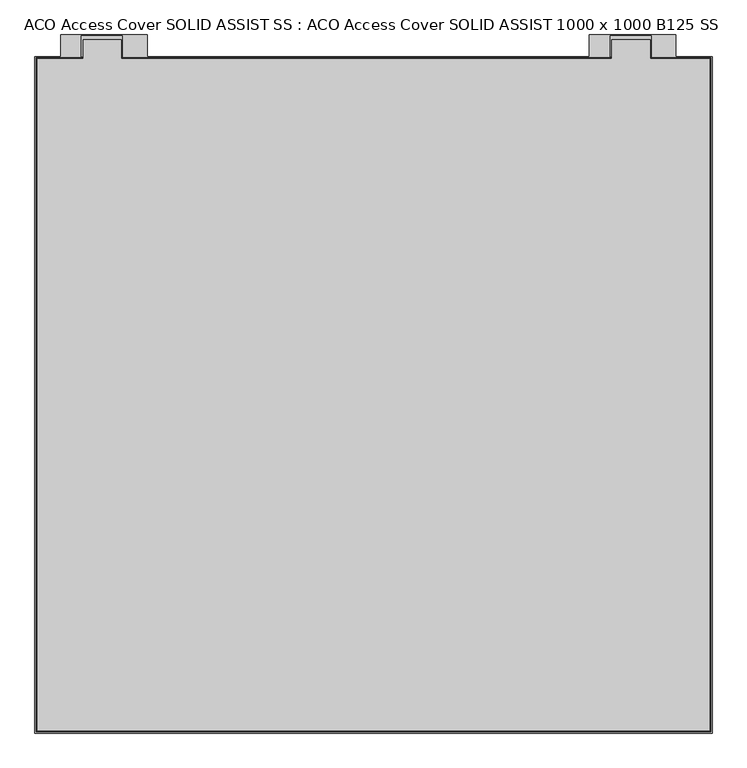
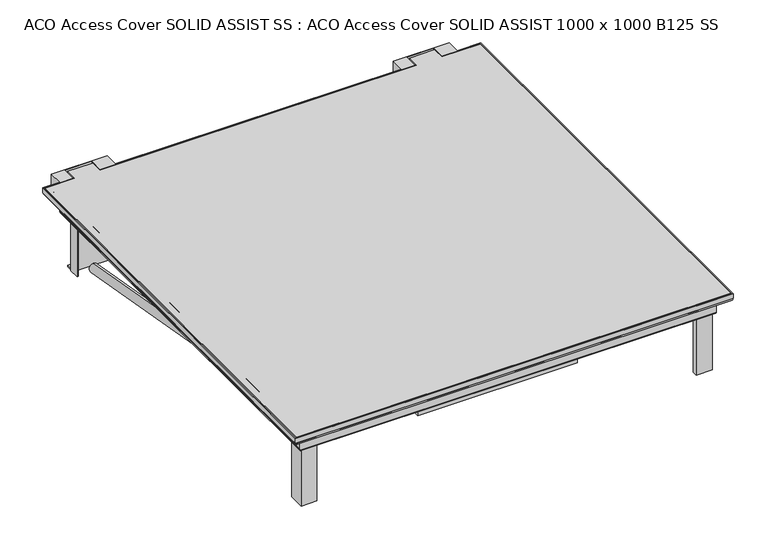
"""IFC4 building model written with IfcOpenShell, lengths in millimetres: proxy geometry, ACO Access Cover SOLID ASSIST SS : ACO Access Cover SOLID ASSIST 1000 x 1000 B125 SS."""

from ifc_helpers import new_model, si_unit, point, frame, origin, origin_2d, place, context, project, spatial, polyline, circle_curve, ellipse_curve, trimmed, segment, composite_curve, outline, extrude, source, transform, mapped, element, save
from ifc_brep_helpers import plane_surface, cylinder_surface, revolved_surface, advanced_brep


def aco_access_cover_solid_assist_ss_aco_access_cover_solid_1b92ef1a(model_context):
    return source(origin(), model_context, "Body", "SolidModel", [
        extrude(outline(polyline([(544.5, 544.0), (544.5, -544.0), (-544.5, -544.0), (-544.5, 544.0), (-470.0, 544.0), (-470.0, 575.0), (-408.0, 575.0), (-408.0, 544.0), (386.0, 544.0), (386.0, 575.0), (448.0, 575.0), (448.0, 544.0), (544.5, 544.0)])), frame((0.0, 0.0, -5.0), z_axis=(0.0, 0.0, 1.0), x_axis=(1.0, 0.0, 0.0)), (0.0, 0.0, 1.0), 5.0),
        extrude(outline(composite_curve([segment(trimmed(circle_curve(origin_2d(), 11.4552822), [point((0.0, 11.4552822))], [point((0.0, -11.4552822))], False, "CARTESIAN"), True, "CONTINUOUS"), segment(trimmed(circle_curve(origin_2d(), 11.4552822), [point((0.0, -11.4552822))], [point((0.0, 11.4552822))], False, "CARTESIAN"), True, "CONTINUOUS")], self_intersect=False)), frame((-461.9, 475.5, -198.5), z_axis=(0.0, -0.9846838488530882, 0.17434941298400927), x_axis=(1.0, 0.0, 0.0)), (0.0, 0.0, 1.0), 960.7144477),
        advanced_brep(
        [(548.0, 547.5, -12.5), (548.0, 547.5, 0.0), (548.0, -547.5, 0.0), (548.0, -547.5, -12.5), (532.0, -531.5, -12.5), (532.0, 531.5, -12.5), (521.0, -520.5, -12.5), (521.0, 520.5, -12.5), (521.0, -520.5, -56.0), (521.0, 520.5, -56.0), (517.0, -516.5, -60.0), (517.0, 516.5, -60.0), (501.9, 501.4, -58.0), (501.9, 501.4, -60.0), (501.9, 477.4, -60.0), (501.9, 477.4, -210.0), (501.9, 474.4, -210.0), (501.9, 474.4, -60.0), (501.9, -474.4, -60.0), (501.9, -474.4, -210.0), (501.9, -477.4, -210.0), (501.9, -477.4, -60.0), (501.9, -501.4, -60.0), (501.9, -501.4, -58.0), (519.0, 518.5, -56.0), (517.0, 516.5, -58.0), (517.0, -516.5, -58.0), (519.0, -518.5, -56.0), (519.0, -518.5, -12.5), (519.0, 518.5, -12.5), (534.0, -533.5, -12.5), (534.0, 533.5, -12.5), (546.0, -545.5, -12.5), (546.0, 545.5, -12.5), (546.0, -545.5, 0.0), (546.0, 545.5, 0.0), (-548.0, -547.5, 0.0), (-548.0, -547.5, -12.5), (-532.0, -531.5, -12.5), (-521.0, -520.5, -12.5), (-521.0, -520.5, -56.0), (-517.0, -516.5, -60.0), (477.9, -501.4, -60.0), (477.9, -501.4, -210.0), (474.9, -501.4, -210.0), (474.9, -501.4, -60.0), (-474.9, -501.4, -60.0), (-474.9, -501.4, -210.0), (-477.9, -501.4, -210.0), (-477.9, -501.4, -60.0), (-501.9, -501.4, -60.0), (-501.9, -501.4, -58.0), (-517.0, -516.5, -58.0), (-519.0, -518.5, -56.0), (-519.0, -518.5, -12.5), (-447.5, -518.5, -12.5), (-447.5, -518.5, -55.0), (-401.5, -518.5, -55.0), (-401.5, -518.5, -12.5), (401.5, -518.5, -12.5), (401.5, -518.5, -55.0), (447.5, -518.5, -55.0), (447.5, -518.5, -12.5), (-534.0, -533.5, -12.5), (-546.0, -545.5, -12.5), (-546.0, -545.5, 0.0), (-548.0, 547.5, 0.0), (-548.0, 547.5, -12.5), (-532.0, 531.5, -12.5), (-521.0, 520.5, -12.5), (-521.0, 520.5, -56.0), (-517.0, 516.5, -60.0), (-501.9, -477.4, -60.0), (-501.9, -477.4, -210.0), (-501.9, -474.4, -210.0), (-501.9, -474.4, -60.0), (-501.9, 475.4, -60.0), (-501.9, 475.4, -207.0), (-501.9, 500.4, -207.0), (-501.9, 500.4, -60.0), (-501.9, 501.4, -60.0), (-501.9, 501.4, -58.0), (-517.0, 516.5, -58.0), (-519.0, 518.5, -56.0), (-519.0, 518.5, -12.5), (-534.0, 533.5, -12.5), (-546.0, 545.5, -12.5), (-546.0, 545.5, 0.0), (489.5, 547.5, 0.0), (489.5, 582.5, 0.0), (349.5, 582.5, 0.0), (349.5, 547.5, 0.0), (-366.5, 547.5, 0.0), (-366.5, 582.5, 0.0), (-506.5, 582.5, 0.0), (-506.5, 547.5, 0.0), (-473.0, 545.5, 0.0), (-473.0, 581.0, 0.0), (-406.5, 581.0, 0.0), (-406.5, 545.5, 0.0), (383.0, 545.5, 0.0), (383.0, 581.0, 0.0), (449.5, 581.0, 0.0), (449.5, 545.5, 0.0), (-506.5, 547.5, -12.5), (489.5, 547.5, -12.5), (349.5, 547.5, -12.5), (-366.5, 547.5, -12.5), (-473.0, 547.5, -12.5), (-473.0, 545.5, -17.7915026), (-406.5, 545.5, -17.7915026), (-406.5, 547.5, -12.5), (383.0, 547.5, -12.5), (383.0, 545.5, -17.7915026), (449.5, 545.5, -17.7915026), (449.5, 547.5, -12.5), (-372.0, 520.5, -56.0), (-372.0, 520.5, -34.0), (-376.0, 520.5, -34.0), (-376.0, 520.5, -56.0), (-462.0, 520.5, -56.0), (-462.0, 520.5, -34.0), (-466.0, 520.5, -34.0), (-466.0, 520.5, -56.0), (480.5, 520.5, -34.0), (480.5, 520.5, -55.5), (484.5, 520.5, -55.5), (484.5, 520.5, -34.0), (390.5, 520.5, -34.0000027), (390.5, 520.5, -55.5000027), (394.5, 520.5, -55.5000037), (394.5, 520.5, -34.0000027), (-466.0, 516.5, -60.0), (-372.0, 516.5, -60.0), (-462.0, 516.5, -60.0), (-376.0, 516.5, -60.0), (477.9, 501.4, -60.0), (477.9, 511.4, -60.0), (511.9, 511.4, -60.0), (511.9, 477.4, -60.0), (511.9, -477.4, -60.0), (511.9, -511.4, -60.0), (477.9, -511.4, -60.0), (-477.9, -511.4, -60.0), (-511.9, -511.4, -60.0), (-511.9, -477.4, -60.0), (-466.0, 502.4, -60.0), (-503.9, 502.4, -60.0), (-503.9, 475.4, -60.0), (-514.9, -474.4, -60.0), (-514.9, -514.4, -60.0), (-474.9, -514.4, -60.0), (474.9, -514.4, -60.0), (514.9, -514.4, -60.0), (514.9, -474.4, -60.0), (514.9, 474.4, -60.0), (514.9, 514.4, -60.0), (474.9, 514.4, -60.0), (474.9, 501.4, -60.0), (-366.9, 501.4, -60.0), (-366.9, 502.4, -60.0), (-372.0, 502.4, -60.0), (-462.0, 502.4, -60.0), (-376.0, 502.4, -60.0), (474.9, 501.4, -210.0), (477.9, 501.4, -210.0), (449.5, 545.5, -12.5), (383.0, 545.5, -12.5), (-406.5, 545.5, -12.5), (-473.0, 545.5, -12.5), (449.5, 581.0, -31.0), (383.0, 581.0, -31.0), (383.0, 547.5, -31.0), (449.5, 547.5, -31.0), (-406.5, 581.0, -31.0), (-473.0, 581.0, -31.0), (-473.0, 547.5, -31.0), (-406.5, 547.5, -31.0), (-514.9, -474.4, -210.0), (-511.9, -477.4, -210.0), (-511.9, -511.4, -210.0), (-477.9, -511.4, -210.0), (-474.9, -514.4, -210.0), (-514.9, -514.4, -210.0), (514.9, -474.4, -210.0), (514.9, -514.4, -210.0), (474.9, -514.4, -210.0), (477.9, -511.4, -210.0), (511.9, -511.4, -210.0), (511.9, -477.4, -210.0), (514.9, 474.4, -210.0), (511.9, 477.4, -210.0), (511.9, 511.4, -210.0), (477.9, 511.4, -210.0), (474.9, 514.4, -210.0), (514.9, 514.4, -210.0), (-506.5, 547.5, -34.0), (-506.5, 582.5, -34.0), (-366.5, 582.5, -34.0), (-366.5, 547.5, -34.0), (-372.0, 547.5, -34.0), (-372.0, 573.9, -34.0), (-376.0, 573.9, -34.0), (-376.0, 547.5, -34.0), (-462.0, 547.5, -34.0), (-462.0, 573.9, -34.0), (-466.0, 573.9, -34.0), (-466.0, 547.5, -34.0), (349.5, 547.5, -34.0), (349.5, 582.5, -34.0), (489.5, 582.5, -34.0), (489.5, 547.5, -34.0), (484.5, 547.5, -34.0), (484.5, 574.0, -34.0), (480.5, 574.0, -34.0), (480.5, 547.5, -34.0), (394.5, 547.5, -34.0), (394.5, 574.0000077, -34.0), (390.5, 574.0000077, -34.0), (390.5, 547.5, -34.0), (480.5, 574.0, -49.0), (480.5, 559.1806559, -46.771067), (480.5, 557.9745716, -36.8440654), (480.5, 533.1570676, -39.8592762), (480.5, 534.3631519, -49.7862777), (484.5, 574.0, -49.0), (484.5, 559.1806559, -46.771067), (484.5, 534.3631519, -49.7862777), (484.5, 533.1570676, -39.8592762), (484.5, 557.9745716, -36.8440654), (390.5, 574.0000077, -49.0000027), (390.5, 559.1806636, -46.7710697), (390.5, 557.9745793, -36.8440681), (390.5, 533.1570753, -39.8592789), (390.5, 534.3631596, -49.7862805), (394.5, 574.0000077, -49.0000027), (394.5, 559.1806636, -46.7710697), (394.5, 534.3631596, -49.7862805), (394.5, 533.1570753, -39.8592789), (394.5, 557.9745793, -36.8440681), (-499.9, 500.4, -210.0), (-499.9, 522.4, -210.0), (-366.9, 522.4, -210.0), (-366.9, 500.4, -210.0), (-366.9, 522.4, -207.0), (-499.9, 522.4, -207.0), (-499.9, 502.4, -207.0), (-366.9, 502.4, -207.0), (-366.9, 500.4, -60.0), (-499.9, 500.4, -207.0), (-503.9, 475.4, -207.0), (-503.9, 502.4, -207.0), (-466.0, 502.4, -206.5), (-462.0, 502.4, -206.5), (-376.0, 502.4, -206.5), (-372.0, 502.4, -206.5), (-462.0, 517.4, -206.5), (-462.0, 573.9, -82.0), (-462.0, 533.6059623, -134.492034), (-462.0, 515.3936264, -126.226998), (-462.0, 538.1224754, -76.1430742), (-462.0, 556.3348113, -84.4081102), (-466.0, 573.9, -82.0), (-466.0, 517.4, -206.5), (-466.0, 533.6059623, -134.492034), (-466.0, 556.3348113, -84.4081102), (-466.0, 538.1224754, -76.1430742), (-466.0, 515.3936264, -126.226998), (-372.0, 573.9, -82.0), (-372.0, 517.4, -206.5), (-372.0, 533.6059623, -134.492034), (-372.0, 515.3936264, -126.226998), (-372.0, 538.1224754, -76.1430742), (-372.0, 556.3348113, -84.4081102), (-376.0, 573.9, -82.0), (-376.0, 517.4, -206.5), (-376.0, 533.6059623, -134.492034), (-376.0, 556.3348113, -84.4081102), (-376.0, 538.1224754, -76.1430742), (-376.0, 515.3936264, -126.226998), (-401.5, -488.5, -55.0), (-447.5, -488.5, -55.0), (447.5, -488.5, -55.0), (401.5, -488.5, -55.0), (-401.5, -488.5, -5.0), (-447.5, -488.5, -5.0), (-447.5, -518.5, -5.0), (-401.5, -518.5, -5.0), (447.5, -488.5, -5.0), (401.5, -488.5, -5.0), (401.5, -518.5, -5.0), (447.5, -518.5, -5.0)],
        [
            (0, 1),
            (1, 2),
            (2, 3),
            (3, 0),
            (3, 4, ellipse_curve(frame((540.0, -539.5, -12.5), z_axis=(0.7071067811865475, 0.7071067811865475, 0.0), x_axis=(-0.7071067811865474, 0.7071067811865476, 0.0)), 11.3137085, 8.0)),
            (4, 5),
            (5, 0, ellipse_curve(frame((540.0, 539.5, -12.5), z_axis=(0.7071067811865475, -0.7071067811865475, 0.0), x_axis=(0.7071067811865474, 0.7071067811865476, 0.0)), 11.3137085, 8.0)),
            (4, 6, ellipse_curve(frame((526.5, -526.0, -12.5), z_axis=(-0.7071067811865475, -0.7071067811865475, 0.0), x_axis=(0.7071067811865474, -0.7071067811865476, 0.0)), 7.7781746, 5.5)),
            (6, 7),
            (7, 5, ellipse_curve(frame((526.5, 526.0, -12.5), z_axis=(-0.7071067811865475, 0.7071067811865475, 0.0), x_axis=(-0.7071067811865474, -0.7071067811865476, 0.0)), 7.7781746, 5.5)),
            (6, 8),
            (8, 9),
            (9, 7),
            (8, 10, ellipse_curve(frame((517.0, -516.5, -56.0), z_axis=(0.7071067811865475, 0.7071067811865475, 0.0), x_axis=(-0.7071067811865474, 0.7071067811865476, 0.0)), 5.6568542, 4.0)),
            (10, 11),
            (11, 9, ellipse_curve(frame((517.0, 516.5, -56.0), z_axis=(0.7071067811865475, -0.7071067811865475, 0.0), x_axis=(0.7071067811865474, 0.7071067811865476, 0.0)), 5.6568542, 4.0)),
            (12, 13),
            (13, 14),
            (14, 15),
            (15, 16),
            (16, 17),
            (17, 18),
            (18, 19),
            (19, 20),
            (20, 21),
            (21, 22),
            (22, 23),
            (23, 12),
            (24, 25, ellipse_curve(frame((517.0, 516.5, -56.0), z_axis=(-0.7071067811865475, 0.7071067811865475, 0.0), x_axis=(-0.7071067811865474, -0.7071067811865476, 0.0)), 2.8284271, 2.0)),
            (25, 26),
            (26, 27, ellipse_curve(frame((517.0, -516.5, -56.0), z_axis=(-0.7071067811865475, -0.7071067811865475, 0.0), x_axis=(0.7071067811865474, -0.7071067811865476, 0.0)), 2.8284271, 2.0)),
            (27, 24),
            (27, 28),
            (28, 29),
            (29, 24),
            (28, 30, ellipse_curve(frame((526.5, -526.0, -12.5), z_axis=(0.7071067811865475, 0.7071067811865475, 0.0), x_axis=(-0.7071067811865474, 0.7071067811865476, 0.0)), 10.6066017, 7.5)),
            (30, 31),
            (31, 29, ellipse_curve(frame((526.5, 526.0, -12.5), z_axis=(0.7071067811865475, -0.7071067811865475, 0.0), x_axis=(0.7071067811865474, 0.7071067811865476, 0.0)), 10.6066017, 7.5)),
            (30, 32, ellipse_curve(frame((540.0, -539.5, -12.5), z_axis=(-0.7071067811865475, -0.7071067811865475, 0.0), x_axis=(0.7071067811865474, -0.7071067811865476, 0.0)), 8.4852814, 6.0)),
            (32, 33),
            (33, 31, ellipse_curve(frame((540.0, 539.5, -12.5), z_axis=(-0.7071067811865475, 0.7071067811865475, 0.0), x_axis=(-0.7071067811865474, -0.7071067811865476, 0.0)), 8.4852814, 6.0)),
            (32, 34),
            (34, 35),
            (35, 33),
            (2, 36),
            (36, 37),
            (37, 3),
            (37, 38, ellipse_curve(frame((-540.0, -539.5, -12.5), z_axis=(0.7071067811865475, -0.7071067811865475, 0.0), x_axis=(0.7071067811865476, 0.7071067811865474, 0.0)), 11.3137085, 8.0)),
            (38, 4),
            (38, 39, ellipse_curve(frame((-526.5, -526.0, -12.5), z_axis=(-0.7071067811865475, 0.7071067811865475, 0.0), x_axis=(-0.7071067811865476, -0.7071067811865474, 0.0)), 7.7781746, 5.5)),
            (39, 6),
            (39, 40),
            (40, 8),
            (40, 41, ellipse_curve(frame((-517.0, -516.5, -56.0), z_axis=(0.7071067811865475, -0.7071067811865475, 0.0), x_axis=(0.7071067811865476, 0.7071067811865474, 0.0)), 5.6568542, 4.0)),
            (41, 10),
            (22, 42),
            (42, 43),
            (43, 44),
            (44, 45),
            (45, 46),
            (46, 47),
            (47, 48),
            (48, 49),
            (49, 50),
            (50, 51),
            (51, 23),
            (26, 52),
            (52, 53, ellipse_curve(frame((-517.0, -516.5, -56.0), z_axis=(-0.7071067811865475, 0.7071067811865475, 0.0), x_axis=(-0.7071067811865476, -0.7071067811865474, 0.0)), 2.8284271, 2.0)),
            (53, 27),
            (53, 54),
            (54, 55),
            (55, 56),
            (56, 57),
            (57, 58),
            (58, 59),
            (59, 60),
            (60, 61),
            (61, 62),
            (62, 28),
            (62, 59),
            (58, 55),
            (54, 63, ellipse_curve(frame((-526.5, -526.0, -12.5), z_axis=(0.7071067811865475, -0.7071067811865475, 0.0), x_axis=(0.7071067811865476, 0.7071067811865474, 0.0)), 10.6066017, 7.5)),
            (63, 30),
            (63, 64, ellipse_curve(frame((-540.0, -539.5, -12.5), z_axis=(-0.7071067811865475, 0.7071067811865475, 0.0), x_axis=(-0.7071067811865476, -0.7071067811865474, 0.0)), 8.4852814, 6.0)),
            (64, 32),
            (64, 65),
            (65, 34),
            (36, 66),
            (66, 67),
            (67, 37),
            (67, 68, ellipse_curve(frame((-540.0, 539.5, -12.5), z_axis=(-0.7071067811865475, -0.7071067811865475, 0.0), x_axis=(0.7071067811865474, -0.7071067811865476, 0.0)), 11.3137085, 8.0)),
            (68, 38),
            (68, 69, ellipse_curve(frame((-526.5, 526.0, -12.5), z_axis=(0.7071067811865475, 0.7071067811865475, 0.0), x_axis=(-0.7071067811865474, 0.7071067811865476, 0.0)), 7.7781746, 5.5)),
            (69, 39),
            (69, 70),
            (70, 40),
            (70, 71, ellipse_curve(frame((-517.0, 516.5, -56.0), z_axis=(-0.7071067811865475, -0.7071067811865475, 0.0), x_axis=(0.7071067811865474, -0.7071067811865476, 0.0)), 5.6568542, 4.0)),
            (71, 41),
            (50, 72),
            (72, 73),
            (73, 74),
            (74, 75),
            (75, 76),
            (76, 77),
            (77, 78),
            (78, 79),
            (79, 80),
            (80, 81),
            (81, 51),
            (52, 82),
            (82, 83, ellipse_curve(frame((-517.0, 516.5, -56.0), z_axis=(0.7071067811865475, 0.7071067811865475, 0.0), x_axis=(-0.7071067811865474, 0.7071067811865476, 0.0)), 2.8284271, 2.0)),
            (83, 53),
            (83, 84),
            (84, 54),
            (84, 85, ellipse_curve(frame((-526.5, 526.0, -12.5), z_axis=(-0.7071067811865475, -0.7071067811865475, 0.0), x_axis=(0.7071067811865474, -0.7071067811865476, 0.0)), 10.6066017, 7.5)),
            (85, 63),
            (85, 86, ellipse_curve(frame((-540.0, 539.5, -12.5), z_axis=(0.7071067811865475, 0.7071067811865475, 0.0), x_axis=(-0.7071067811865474, 0.7071067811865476, 0.0)), 8.4852814, 6.0)),
            (86, 64),
            (86, 87),
            (87, 65),
            (1, 88),
            (88, 89),
            (89, 90),
            (90, 91),
            (91, 92),
            (92, 93),
            (93, 94),
            (94, 95),
            (95, 66),
            (87, 96),
            (96, 97),
            (97, 98),
            (98, 99),
            (99, 100),
            (100, 101),
            (101, 102),
            (102, 103),
            (103, 35),
            (95, 104),
            (104, 67),
            (0, 105),
            (105, 88),
            (91, 106),
            (106, 107),
            (107, 92),
            (5, 68),
            (104, 108),
            (108, 109, circle_curve(frame((-473.0, 539.5, -12.5), z_axis=(-1.0, 0.0, 0.0), x_axis=(0.0, 1.0, 0.0)), 8.0)),
            (109, 110),
            (110, 111, circle_curve(frame((-406.5, 539.5, -12.5), z_axis=(1.0, 0.0, 0.0), x_axis=(0.0, 1.0, 0.0)), 8.0)),
            (111, 107),
            (106, 112),
            (112, 113, circle_curve(frame((383.0, 539.5, -12.5), z_axis=(-1.0, 0.0, 0.0), x_axis=(0.0, 1.0, 0.0)), 8.0)),
            (113, 114),
            (114, 115, circle_curve(frame((449.5, 539.5, -12.5), z_axis=(1.0, 0.0, 0.0), x_axis=(0.0, 1.0, 0.0)), 8.0)),
            (115, 105),
            (7, 69),
            (9, 116),
            (116, 117),
            (117, 118),
            (118, 119),
            (119, 120),
            (120, 121),
            (121, 122),
            (122, 123),
            (123, 70),
            (124, 125),
            (125, 126),
            (126, 127),
            (127, 124),
            (128, 129),
            (129, 130),
            (130, 131),
            (131, 128),
            (123, 132, circle_curve(frame((-466.0, 516.5, -56.0), z_axis=(-1.0, 0.0, 0.0), x_axis=(0.0, 1.0, 0.0)), 4.0)),
            (132, 71),
            (11, 133),
            (133, 116, circle_curve(frame((-372.0, 516.5, -56.0), z_axis=(1.0, 0.0, 0.0), x_axis=(0.0, 1.0, 0.0)), 4.0)),
            (134, 120, circle_curve(frame((-462.0, 516.5, -56.0), z_axis=(1.0, 0.0, 0.0), x_axis=(0.0, 1.0, 0.0)), 4.0)),
            (119, 135, circle_curve(frame((-376.0, 516.5, -56.0), z_axis=(-1.0, 0.0, 0.0), x_axis=(0.0, 1.0, 0.0)), 4.0)),
            (135, 134),
            (13, 136),
            (136, 137),
            (137, 138),
            (138, 139),
            (139, 14),
            (21, 140),
            (140, 141),
            (141, 142),
            (142, 42),
            (49, 143),
            (143, 144),
            (144, 145),
            (145, 72),
            (132, 146),
            (146, 147),
            (147, 148),
            (148, 76),
            (75, 149),
            (149, 150),
            (150, 151),
            (151, 46),
            (45, 152),
            (152, 153),
            (153, 154),
            (154, 18),
            (17, 155),
            (155, 156),
            (156, 157),
            (157, 158),
            (158, 159),
            (159, 160),
            (160, 161),
            (161, 133),
            (162, 134),
            (135, 163),
            (163, 162),
            (12, 81),
            (80, 159),
            (158, 164),
            (164, 165),
            (165, 136),
            (25, 82),
            (24, 83),
            (29, 84),
            (31, 85),
            (33, 166),
            (166, 167),
            (167, 168),
            (168, 169),
            (169, 86),
            (169, 96),
            (99, 168),
            (167, 100),
            (103, 166),
            (170, 171),
            (171, 172),
            (172, 173),
            (173, 170),
            (174, 175),
            (175, 176),
            (176, 177),
            (177, 174),
            (170, 102),
            (101, 171),
            (167, 113),
            (112, 172),
            (166, 114),
            (173, 115),
            (174, 98),
            (97, 175),
            (169, 109),
            (108, 176),
            (168, 110),
            (177, 111),
            (178, 74),
            (73, 179),
            (179, 180),
            (180, 181),
            (181, 48),
            (47, 182),
            (182, 183),
            (183, 178),
            (184, 185),
            (185, 186),
            (186, 44),
            (43, 187),
            (187, 188),
            (188, 189),
            (189, 20),
            (19, 184),
            (190, 16),
            (15, 191),
            (191, 192),
            (192, 193),
            (193, 165),
            (164, 194),
            (194, 195),
            (195, 190),
            (183, 150),
            (149, 178),
            (182, 151),
            (181, 143),
            (180, 144),
            (179, 145),
            (154, 184),
            (189, 140),
            (188, 141),
            (187, 142),
            (186, 152),
            (185, 153),
            (195, 156),
            (155, 190),
            (194, 157),
            (193, 137),
            (192, 138),
            (191, 139),
            (196, 197),
            (197, 198),
            (198, 199),
            (199, 200),
            (200, 201),
            (201, 202),
            (202, 203),
            (203, 204),
            (204, 205),
            (205, 206),
            (206, 207),
            (207, 196),
            (208, 209),
            (209, 210),
            (210, 211),
            (211, 212),
            (212, 213),
            (213, 214),
            (214, 215),
            (215, 216),
            (216, 217),
            (217, 218),
            (218, 219),
            (219, 208),
            (198, 93),
            (107, 199),
            (197, 94),
            (196, 104),
            (207, 204),
            (203, 200),
            (211, 105),
            (106, 208),
            (219, 216),
            (215, 212),
            (210, 89),
            (209, 90),
            (214, 220),
            (220, 125),
            (124, 215),
            (221, 222, circle_curve(frame((480.5, 558.5776137, -41.8075662), z_axis=(1.0, 0.0, 0.0), x_axis=(0.0, 1.0, 0.0)), 5.0)),
            (222, 223),
            (223, 224, circle_curve(frame((480.5, 533.7601097, -44.8227769), z_axis=(1.0, 0.0, 0.0), x_axis=(0.0, 1.0, 0.0)), 5.0)),
            (224, 221),
            (126, 225),
            (225, 213),
            (212, 127),
            (226, 227),
            (227, 228, circle_curve(frame((484.5, 533.7601097, -44.8227769), z_axis=(-1.0, 0.0, 0.0), x_axis=(0.0, 1.0, 0.0)), 5.0)),
            (228, 229),
            (229, 226, circle_curve(frame((484.5, 558.5776137, -41.8075662), z_axis=(-1.0, 0.0, 0.0), x_axis=(0.0, 1.0, 0.0)), 5.0)),
            (220, 225),
            (224, 227),
            (226, 221),
            (223, 228),
            (222, 229),
            (218, 230),
            (230, 129),
            (128, 219),
            (231, 232, circle_curve(frame((390.5, 558.5776215, -41.8075689), z_axis=(1.0, 0.0, 0.0), x_axis=(0.0, 1.0, 0.0)), 5.0)),
            (232, 233),
            (233, 234, circle_curve(frame((390.5, 533.7601175, -44.8227797), z_axis=(1.0, 0.0, 0.0), x_axis=(0.0, 1.0, 0.0)), 5.0)),
            (234, 231),
            (130, 235),
            (235, 217),
            (216, 131),
            (236, 237),
            (237, 238, circle_curve(frame((394.5, 533.7601175, -44.8227797), z_axis=(-1.0, 0.0, 0.0), x_axis=(0.0, 1.0, 0.0)), 5.0)),
            (238, 239),
            (239, 236, circle_curve(frame((394.5, 558.5776215, -41.8075689), z_axis=(-1.0, 0.0, 0.0), x_axis=(0.0, 1.0, 0.0)), 5.0)),
            (230, 235),
            (234, 237),
            (236, 231),
            (233, 238),
            (232, 239),
            (240, 241),
            (241, 242),
            (242, 243),
            (243, 240),
            (244, 245),
            (245, 246),
            (246, 247),
            (247, 244),
            (243, 248),
            (248, 79),
            (78, 249),
            (249, 240),
            (242, 244),
            (247, 160),
            (159, 248),
            (241, 245),
            (249, 246),
            (77, 250),
            (250, 251),
            (251, 246),
            (250, 148),
            (147, 251),
            (146, 252),
            (252, 253),
            (253, 162),
            (163, 254),
            (254, 255),
            (255, 161),
            (253, 256),
            (256, 257),
            (257, 205),
            (204, 121),
            (258, 259, circle_curve(frame((-462.0, 524.4997944, -130.359516), z_axis=(-1.0, 0.0, 0.0), x_axis=(0.0, 1.0, 0.0)), 10.0)),
            (259, 260),
            (260, 261, circle_curve(frame((-462.0, 547.2286433, -80.2755922), z_axis=(-1.0, 0.0, 0.0), x_axis=(0.0, 1.0, 0.0)), 10.0)),
            (261, 258),
            (206, 262),
            (262, 263),
            (263, 252),
            (122, 207),
            (264, 265),
            (265, 266, circle_curve(frame((-466.0, 547.2286433, -80.2755922), z_axis=(1.0, 0.0, 0.0), x_axis=(0.0, 1.0, 0.0)), 10.0)),
            (266, 267),
            (267, 264, circle_curve(frame((-466.0, 524.4997944, -130.359516), z_axis=(1.0, 0.0, 0.0), x_axis=(0.0, 1.0, 0.0)), 10.0)),
            (263, 256),
            (262, 257),
            (258, 264),
            (267, 259),
            (266, 260),
            (265, 261),
            (268, 201),
            (200, 117),
            (255, 269),
            (269, 268),
            (270, 271, circle_curve(frame((-372.0, 524.4997944, -130.359516), z_axis=(-1.0, 0.0, 0.0), x_axis=(0.0, 1.0, 0.0)), 10.0)),
            (271, 272),
            (272, 273, circle_curve(frame((-372.0, 547.2286433, -80.2755922), z_axis=(-1.0, 0.0, 0.0), x_axis=(0.0, 1.0, 0.0)), 10.0)),
            (273, 270),
            (274, 275),
            (275, 254),
            (118, 203),
            (202, 274),
            (276, 277),
            (277, 278, circle_curve(frame((-376.0, 547.2286433, -80.2755922), z_axis=(1.0, 0.0, 0.0), x_axis=(0.0, 1.0, 0.0)), 10.0)),
            (278, 279),
            (279, 276, circle_curve(frame((-376.0, 524.4997944, -130.359516), z_axis=(1.0, 0.0, 0.0), x_axis=(0.0, 1.0, 0.0)), 10.0)),
            (268, 274),
            (275, 269),
            (270, 276),
            (279, 271),
            (278, 272),
            (277, 273),
            (280, 57),
            (56, 281),
            (281, 280),
            (282, 61),
            (60, 283),
            (283, 282),
            (284, 285),
            (285, 286),
            (286, 287),
            (287, 284),
            (288, 289),
            (289, 290),
            (290, 291),
            (291, 288),
            (281, 285),
            (284, 280),
            (55, 286),
            (58, 287),
            (283, 289),
            (288, 282),
            (59, 290),
            (62, 291),
        ],
        [
            plane_surface(frame((548.0, 547.5, 0.0), z_axis=(1.0, 0.0, 0.0), x_axis=(0.0, -1.0, 0.0))),
            cylinder_surface(frame((540.0, 547.5, -12.5), z_axis=(0.0, 1.0, 0.0), x_axis=(1.0, 0.0, 0.0)), 8.0),
            revolved_surface(polyline([(532.0, -531.5000000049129, -12.5), (532.0, 531.500000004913, -12.5)]), (526.5, 547.5, -12.5), (0.0, -1.0, 0.0)),
            plane_surface(frame((521.0, 520.5, -12.5), z_axis=(1.0, 0.0, 0.0), x_axis=(0.0, -1.0, 0.0))),
            cylinder_surface(frame((517.0, 547.5, -56.0), z_axis=(0.0, 1.0, 0.0), x_axis=(1.0, 0.0, 0.0)), 4.0),
            plane_surface(frame((501.9, 501.4, -60.0), z_axis=(-1.0, 0.0, 0.0), x_axis=(0.0, -1.0, 0.0))),
            revolved_surface(polyline([(519.0, -518.5, -56.0), (519.0, 518.5, -56.0)]), (517.0, 547.5, -56.0), (0.0, -1.0, 0.0)),
            plane_surface(frame((519.0, 518.5, -56.0), z_axis=(-1.0, 0.0, 0.0), x_axis=(0.0, -1.0, 0.0))),
            cylinder_surface(frame((526.5, 547.5, -12.5), z_axis=(0.0, 1.0, 0.0), x_axis=(1.0, 0.0, 0.0)), 7.5),
            revolved_surface(polyline([(546.0, -545.500000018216, -12.5), (546.0, 545.500000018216, -12.5)]), (540.0, 547.5, -12.5), (0.0, -1.0, 0.0)),
            plane_surface(frame((546.0, 545.5, -12.5), z_axis=(-1.0, 0.0, 0.0), x_axis=(0.0, -1.0, 0.0))),
            plane_surface(frame((548.0, -547.5, 0.0), z_axis=(0.0, -1.0, 0.0), x_axis=(-1.0, 0.0, 0.0))),
            cylinder_surface(frame((548.0, -539.5, -12.5), z_axis=(1.0, 0.0, 0.0), x_axis=(0.0, -1.0, 0.0)), 8.0),
            revolved_surface(polyline([(-532.0000000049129, -531.5, -12.5), (532.000000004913, -531.5, -12.5)]), (548.0, -526.0, -12.5), (-1.0, 0.0, 0.0)),
            plane_surface(frame((521.0, -520.5, -12.5), z_axis=(0.0, -1.0, 0.0), x_axis=(-1.0, 0.0, 0.0))),
            cylinder_surface(frame((548.0, -516.5, -56.0), z_axis=(1.0, 0.0, 0.0), x_axis=(0.0, -1.0, 0.0)), 4.0),
            plane_surface(frame((501.9, -501.4, -60.0), z_axis=(0.0, 1.0, 0.0), x_axis=(-1.0, 0.0, 0.0))),
            revolved_surface(polyline([(-519.0, -518.5, -56.0), (519.0, -518.5, -56.0)]), (548.0, -516.5, -56.0), (-1.0, 0.0, 0.0)),
            plane_surface(frame((519.0, -518.5, -56.0), z_axis=(0.0, 1.0, 0.0), x_axis=(-1.0, 0.0, 0.0))),
            cylinder_surface(frame((548.0, -526.0, -12.5), z_axis=(1.0, 0.0, 0.0), x_axis=(0.0, -1.0, 0.0)), 7.5),
            revolved_surface(polyline([(-546.000000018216, -545.5, -12.5), (546.000000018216, -545.5, -12.5)]), (548.0, -539.5, -12.5), (-1.0, 0.0, 0.0)),
            plane_surface(frame((546.0, -545.5, -12.5), z_axis=(0.0, 1.0, 0.0), x_axis=(-1.0, 0.0, 0.0))),
            plane_surface(frame((-548.0, -547.5, 0.0), z_axis=(-1.0, 0.0, 0.0), x_axis=(0.0, 1.0, 0.0))),
            cylinder_surface(frame((-540.0, -547.5, -12.5), z_axis=(0.0, -1.0, 0.0), x_axis=(-1.0, 0.0, 0.0)), 8.0),
            revolved_surface(polyline([(-532.0, 531.5000000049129, -12.5), (-532.0, -531.500000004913, -12.5)]), (-526.5, -547.5, -12.5), (0.0, 1.0, 0.0)),
            plane_surface(frame((-521.0, -520.5, -12.5), z_axis=(-1.0, 0.0, 0.0), x_axis=(0.0, 1.0, 0.0))),
            cylinder_surface(frame((-517.0, -547.5, -56.0), z_axis=(0.0, -1.0, 0.0), x_axis=(-1.0, 0.0, 0.0)), 4.0),
            plane_surface(frame((-501.9, -501.4, -60.0), z_axis=(1.0, 0.0, 0.0), x_axis=(0.0, 1.0, 0.0))),
            revolved_surface(polyline([(-519.0, 518.5, -56.0), (-519.0, -518.5, -56.0)]), (-517.0, -547.5, -56.0), (0.0, 1.0, 0.0)),
            plane_surface(frame((-519.0, -518.5, -56.0), z_axis=(1.0, 0.0, 0.0), x_axis=(0.0, 1.0, 0.0))),
            cylinder_surface(frame((-526.5, -547.5, -12.5), z_axis=(0.0, -1.0, 0.0), x_axis=(-1.0, 0.0, 0.0)), 7.5),
            revolved_surface(polyline([(-546.0, 545.500000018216, -12.5), (-546.0, -545.500000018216, -12.5)]), (-540.0, -547.5, -12.5), (0.0, 1.0, 0.0)),
            plane_surface(frame((-546.0, -545.5, -12.5), z_axis=(1.0, 0.0, 0.0), x_axis=(0.0, 1.0, 0.0))),
            plane_surface(frame((-546.0, 545.5, 0.0), z_axis=(0.0, 0.0, 1.0), x_axis=(1.0, 0.0, 0.0))),
            plane_surface(frame((-548.0, 547.5, 0.0), z_axis=(0.0, 1.0, 0.0), x_axis=(1.0, 0.0, 0.0))),
            cylinder_surface(frame((-548.0, 539.5, -12.5), z_axis=(-1.0, 0.0, 0.0), x_axis=(0.0, 1.0, 0.0)), 8.0),
            revolved_surface(polyline([(532.0000000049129, 531.5, -12.5), (-532.000000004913, 531.5, -12.5)]), (-548.0, 526.0, -12.5), (1.0, 0.0, 0.0)),
            plane_surface(frame((-521.0, 520.5, -12.5), z_axis=(0.0, 1.0, 0.0), x_axis=(1.0, 0.0, 0.0))),
            cylinder_surface(frame((-548.0, 516.5, -56.0), z_axis=(-1.0, 0.0, 0.0), x_axis=(0.0, 1.0, 0.0)), 4.0),
            plane_surface(frame((-517.0, 516.5, -60.0), z_axis=(0.0, 0.0, -1.0), x_axis=(1.0, 0.0, 0.0))),
            plane_surface(frame((-501.9, 501.4, -60.0), z_axis=(0.0, -1.0, 0.0), x_axis=(1.0, 0.0, 0.0))),
            plane_surface(frame((-501.9, 501.4, -58.0), z_axis=(0.0, 0.0, 1.0), x_axis=(1.0, 0.0, 0.0))),
            revolved_surface(polyline([(519.0, 518.5, -56.0), (-519.0, 518.5, -56.0)]), (-548.0, 516.5, -56.0), (1.0, 0.0, 0.0)),
            plane_surface(frame((-519.0, 518.5, -56.0), z_axis=(0.0, -1.0, 0.0), x_axis=(1.0, 0.0, 0.0))),
            cylinder_surface(frame((-548.0, 526.0, -12.5), z_axis=(-1.0, 0.0, 0.0), x_axis=(0.0, 1.0, 0.0)), 7.5),
            revolved_surface(polyline([(546.000000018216, 545.5, -12.5), (-546.000000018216, 545.5, -12.5)]), (-548.0, 539.5, -12.5), (1.0, 0.0, 0.0)),
            plane_surface(frame((-546.0, 545.5, -12.5), z_axis=(0.0, -1.0, 0.0), x_axis=(1.0, 0.0, 0.0))),
            plane_surface(frame((383.0, 581.0, -31.0), z_axis=(0.0, 0.0, 1.0), x_axis=(1.0, 0.0, 0.0))),
            plane_surface(frame((449.5, 581.0, 0.0), z_axis=(0.0, -1.0, 0.0), x_axis=(0.0, 0.0, -1.0))),
            plane_surface(frame((383.0, 581.0, 0.0), z_axis=(1.0, 0.0, 0.0), x_axis=(0.0, 0.0, -1.0))),
            plane_surface(frame((383.0, 545.5, 0.0), z_axis=(0.0, 1.0, 0.0), x_axis=(0.0, 0.0, -1.0))),
            plane_surface(frame((449.5, 545.5, 0.0), z_axis=(-1.0, 0.0, 0.0), x_axis=(0.0, 0.0, -1.0))),
            plane_surface(frame((-406.5, 581.0, 0.0), z_axis=(0.0, -1.0, 0.0), x_axis=(0.0, 0.0, -1.0))),
            plane_surface(frame((-473.0, 581.0, 0.0), z_axis=(1.0, 0.0, 0.0), x_axis=(0.0, 0.0, -1.0))),
            plane_surface(frame((-473.0, 545.5, 0.0), z_axis=(0.0, 1.0, 0.0), x_axis=(0.0, 0.0, -1.0))),
            plane_surface(frame((-406.5, 545.5, 0.0), z_axis=(-1.0, 0.0, 0.0), x_axis=(0.0, 0.0, -1.0))),
            plane_surface(frame((-514.9, -474.4, -210.0), z_axis=(0.0, 0.0, -1.0), x_axis=(0.0, 1.0, 0.0))),
            plane_surface(frame((-514.9, -474.4, -60.0), z_axis=(-1.0, 0.0, 0.0), x_axis=(0.0, 0.0, -1.0))),
            plane_surface(frame((-514.9, -514.4, -60.0), z_axis=(0.0, -1.0, 0.0), x_axis=(0.0, 0.0, -1.0))),
            plane_surface(frame((-474.9, -514.4, -60.0), z_axis=(1.0, 0.0, 0.0), x_axis=(0.0, 0.0, -1.0))),
            plane_surface(frame((-477.9, -501.4, -60.0), z_axis=(-1.0, 0.0, 0.0), x_axis=(0.0, 0.0, -1.0))),
            plane_surface(frame((-477.9, -511.4, -60.0), z_axis=(0.0, 1.0, 0.0), x_axis=(0.0, 0.0, -1.0))),
            plane_surface(frame((-511.9, -511.4, -60.0), z_axis=(1.0, 0.0, 0.0), x_axis=(0.0, 0.0, -1.0))),
            plane_surface(frame((-511.9, -477.4, -60.0), z_axis=(0.0, -1.0, 0.0), x_axis=(0.0, 0.0, -1.0))),
            plane_surface(frame((-501.9, -474.4, -60.0), z_axis=(0.0, 1.0, 0.0), x_axis=(0.0, 0.0, -1.0))),
            plane_surface(frame((514.9, -474.4, -60.0), z_axis=(0.0, 1.0, 0.0), x_axis=(0.0, 0.0, -1.0))),
            plane_surface(frame((501.9, -477.4, -60.0), z_axis=(0.0, -1.0, 0.0), x_axis=(0.0, 0.0, -1.0))),
            plane_surface(frame((511.9, -477.4, -60.0), z_axis=(-1.0, 0.0, 0.0), x_axis=(0.0, 0.0, -1.0))),
            plane_surface(frame((511.9, -511.4, -60.0), z_axis=(0.0, 1.0, 0.0), x_axis=(0.0, 0.0, -1.0))),
            plane_surface(frame((477.9, -511.4, -60.0), z_axis=(1.0, 0.0, 0.0), x_axis=(0.0, 0.0, -1.0))),
            plane_surface(frame((474.9, -501.4, -60.0), z_axis=(-1.0, 0.0, 0.0), x_axis=(0.0, 0.0, -1.0))),
            plane_surface(frame((474.9, -514.4, -60.0), z_axis=(0.0, -1.0, 0.0), x_axis=(0.0, 0.0, -1.0))),
            plane_surface(frame((514.9, -514.4, -60.0), z_axis=(1.0, 0.0, 0.0), x_axis=(0.0, 0.0, -1.0))),
            plane_surface(frame((514.9, 474.4, -60.0), z_axis=(1.0, 0.0, 0.0), x_axis=(0.0, 0.0, -1.0))),
            plane_surface(frame((514.9, 514.4, -60.0), z_axis=(0.0, 1.0, 0.0), x_axis=(0.0, 0.0, -1.0))),
            plane_surface(frame((474.9, 514.4, -60.0), z_axis=(-1.0, 0.0, 0.0), x_axis=(0.0, 0.0, -1.0))),
            plane_surface(frame((477.9, 501.4, -60.0), z_axis=(1.0, 0.0, 0.0), x_axis=(0.0, 0.0, -1.0))),
            plane_surface(frame((477.9, 511.4, -60.0), z_axis=(0.0, -1.0, 0.0), x_axis=(0.0, 0.0, -1.0))),
            plane_surface(frame((511.9, 511.4, -60.0), z_axis=(-1.0, 0.0, 0.0), x_axis=(0.0, 0.0, -1.0))),
            plane_surface(frame((511.9, 477.4, -60.0), z_axis=(0.0, 1.0, 0.0), x_axis=(0.0, 0.0, -1.0))),
            plane_surface(frame((501.9, 474.4, -60.0), z_axis=(0.0, -1.0, 0.0), x_axis=(0.0, 0.0, -1.0))),
            plane_surface(frame((-366.5, 547.5, -34.0), z_axis=(0.0, 0.0, -1.0), x_axis=(0.0, -1.0, 0.0))),
            plane_surface(frame((-366.5, 547.5, 0.0), z_axis=(1.0, 0.0, 0.0), x_axis=(0.0, 0.0, -1.0))),
            plane_surface(frame((-366.5, 582.5, 0.0), z_axis=(0.0, 1.0, 0.0), x_axis=(0.0, 0.0, -1.0))),
            plane_surface(frame((-506.5, 582.5, 0.0), z_axis=(-1.0, 0.0, 0.0), x_axis=(0.0, 0.0, -1.0))),
            plane_surface(frame((-506.5, 547.5, 0.0), z_axis=(0.0, -1.0, 0.0), x_axis=(0.0, 0.0, -1.0))),
            plane_surface(frame((349.5, 547.5, 0.0), z_axis=(0.0, -1.0, 0.0), x_axis=(0.0, 0.0, -1.0))),
            plane_surface(frame((489.5, 547.5, 0.0), z_axis=(1.0, 0.0, 0.0), x_axis=(0.0, 0.0, -1.0))),
            plane_surface(frame((489.5, 582.5, 0.0), z_axis=(0.0, 1.0, 0.0), x_axis=(0.0, 0.0, -1.0))),
            plane_surface(frame((349.5, 582.5, 0.0), z_axis=(-1.0, 0.0, 0.0), x_axis=(0.0, 0.0, -1.0))),
            plane_surface(frame((480.5, 520.5, -34.0), z_axis=(-1.0, 0.0, 0.0), x_axis=(0.0, 1.0, 0.0))),
            plane_surface(frame((484.5, 520.5, -34.0), z_axis=(1.0, 0.0, 0.0), x_axis=(0.0, -1.0, 0.0))),
            plane_surface(frame((484.5, 574.0, -34.0), z_axis=(0.0, 0.0, 1.0), x_axis=(-1.0, 0.0, 0.0))),
            plane_surface(frame((484.5, 520.5, -55.5), z_axis=(0.0, 0.12060843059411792, -0.9927001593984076), x_axis=(-1.0, 0.0, 0.0))),
            plane_surface(frame((484.5, 574.0, -49.0), z_axis=(0.0, 1.0, 0.0), x_axis=(-1.0, 0.0, 0.0))),
            plane_surface(frame((484.5, 559.1806559, -46.771067), z_axis=(0.0, -0.12060843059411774, 0.9927001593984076), x_axis=(-1.0, 0.0, 0.0))),
            revolved_surface(polyline([(480.5, 538.7601097, -44.8227769), (484.5, 538.7601097, -44.8227769)]), (25.0, 533.7601097, -44.8227769), (-1.0, 0.0, 0.0)),
            plane_surface(frame((484.5, 533.1570676, -39.8592762), z_axis=(0.0, 0.1206084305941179, -0.9927001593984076), x_axis=(-1.0, 0.0, 0.0))),
            revolved_surface(polyline([(480.5, 563.5776137, -41.8075662), (484.5, 563.5776137, -41.8075662)]), (25.0, 558.5776137, -41.8075662), (-1.0, 0.0, 0.0)),
            plane_surface(frame((390.5, 520.5000077, -34.0000027), z_axis=(-1.0, 0.0, 0.0), x_axis=(0.0, 1.0, 0.0))),
            plane_surface(frame((394.5, 520.5000077, -34.0000027), z_axis=(1.0, 0.0, 0.0), x_axis=(0.0, -1.0, 0.0))),
            plane_surface(frame((394.5, 574.0000077, -34.0000027), z_axis=(0.0, 0.0, 1.0), x_axis=(-1.0, 0.0, 0.0))),
            plane_surface(frame((394.5, 520.5000077, -55.5000027), z_axis=(0.0, 0.12060843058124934, -0.9927001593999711), x_axis=(-1.0, 0.0, 0.0))),
            plane_surface(frame((394.5, 574.0000077, -49.0000027), z_axis=(0.0, 1.0, 0.0), x_axis=(-1.0, 0.0, 0.0))),
            plane_surface(frame((394.5, 559.1806636, -46.7710697), z_axis=(0.0, -0.12060843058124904, 0.9927001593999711), x_axis=(-1.0, 0.0, 0.0))),
            revolved_surface(polyline([(390.5, 538.7601175, -44.8227797), (394.5, 538.7601175, -44.8227797)]), (-65.0, 533.7601175, -44.8227797), (-1.0, 0.0, 0.0)),
            plane_surface(frame((394.5, 533.1570753, -39.8592789), z_axis=(0.0, 0.12060843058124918, -0.9927001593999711), x_axis=(-1.0, 0.0, 0.0))),
            revolved_surface(polyline([(390.5, 563.5776215, -41.8075689), (394.5, 563.5776215, -41.8075689)]), (-65.0, 558.5776215, -41.8075689), (-1.0, 0.0, 0.0)),
            plane_surface(frame((-366.9, 500.4, -210.0), z_axis=(0.0, 0.0, -1.0), x_axis=(-1.0, 0.0, 0.0))),
            plane_surface(frame((-366.9, 500.4, -207.0), z_axis=(0.0, 0.0, 1.0), x_axis=(1.0, 0.0, 0.0))),
            plane_surface(frame((-499.9, 500.4, -207.0), z_axis=(0.0, -1.0, 0.0), x_axis=(0.0, 0.0, -1.0))),
            plane_surface(frame((-366.9, 500.4, -207.0), z_axis=(1.0, 0.0, 0.0), x_axis=(0.0, 0.0, -1.0))),
            plane_surface(frame((-366.9, 522.4, -207.0), z_axis=(0.0, 1.0, 0.0), x_axis=(0.0, 0.0, -1.0))),
            plane_surface(frame((-499.9, 522.4, -207.0), z_axis=(-1.0, 0.0, 0.0), x_axis=(0.0, 0.0, -1.0))),
            plane_surface(frame((-503.9, 475.4, -207.0), z_axis=(0.0, 0.0, -1.0), x_axis=(0.0, 1.0, 0.0))),
            plane_surface(frame((-503.9, 475.4, -60.0), z_axis=(0.0, 0.0, 1.0), x_axis=(0.0, -1.0, 0.0))),
            plane_surface(frame((-503.9, 502.4, -60.0), z_axis=(-1.0, 0.0, 0.0), x_axis=(0.0, 0.0, -1.0))),
            plane_surface(frame((-503.9, 475.4, -60.0), z_axis=(0.0, -1.0, 0.0), x_axis=(0.0, 0.0, -1.0))),
            plane_surface(frame((-366.9, 502.4, -60.0), z_axis=(0.0, 1.0, 0.0), x_axis=(0.0, 0.0, -1.0))),
            plane_surface(frame((-462.0, 520.5, -56.0), z_axis=(1.0, 0.0, 0.0), x_axis=(0.0, 0.0, -1.0))),
            plane_surface(frame((-466.0, 520.5, -56.0), z_axis=(-1.0, 0.0, 0.0), x_axis=(0.0, 0.0, 1.0))),
            plane_surface(frame((-462.0, 502.4, -206.5), z_axis=(0.0, 0.0, -1.0), x_axis=(-1.0, 0.0, 0.0))),
            plane_surface(frame((-462.0, 517.4, -206.5), z_axis=(0.0, 0.9106167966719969, -0.4132517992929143), x_axis=(-1.0, 0.0, 0.0))),
            plane_surface(frame((-462.0, 573.9, -82.0), z_axis=(0.0, 1.0, 0.0), x_axis=(-1.0, 0.0, 0.0))),
            plane_surface(frame((-462.0, 573.9, -34.0), z_axis=(0.0, 0.0, 1.0), x_axis=(-1.0, 0.0, 0.0))),
            revolved_surface(polyline([(-466.0, 534.4997944, -130.359516), (-462.0, 534.4997944, -130.359516)]), (0.0, 524.4997944, -130.359516), (-1.0, 0.0, 0.0)),
            plane_surface(frame((-462.0, 515.3936264, -126.226998), z_axis=(0.0, 0.9106167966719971, -0.4132517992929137), x_axis=(-1.0, 0.0, 0.0))),
            revolved_surface(polyline([(-466.0, 557.2286433, -80.2755922), (-462.0, 557.2286433, -80.2755922)]), (0.0, 547.2286433, -80.2755922), (-1.0, 0.0, 0.0)),
            plane_surface(frame((-462.0, 556.3348113, -84.4081102), z_axis=(0.0, -0.9106167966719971, 0.4132517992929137), x_axis=(-1.0, 0.0, 0.0))),
            plane_surface(frame((-372.0, 573.9, -34.0), z_axis=(1.0, 0.0, 0.0), x_axis=(0.0, 0.0, 1.0))),
            plane_surface(frame((-376.0, 573.9, -34.0), z_axis=(-1.0, 0.0, 0.0), x_axis=(0.0, 0.0, -1.0))),
            plane_surface(frame((-372.0, 573.9, -82.0), z_axis=(0.0, 1.0, 0.0), x_axis=(-1.0, 0.0, 0.0))),
            plane_surface(frame((-372.0, 573.9, -34.0), z_axis=(0.0, 0.0, 1.0), x_axis=(-1.0, 0.0, 0.0))),
            plane_surface(frame((-372.0, 502.4, -206.5), z_axis=(0.0, 0.0, -1.0), x_axis=(-1.0, 0.0, 0.0))),
            plane_surface(frame((-372.0, 517.4, -206.5), z_axis=(0.0, 0.9106167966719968, -0.41325179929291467), x_axis=(-1.0, 0.0, 0.0))),
            revolved_surface(polyline([(-376.0, 534.4997944, -130.359516), (-372.0, 534.4997944, -130.359516)]), (-376.0, 524.4997944, -130.359516), (-1.0, 0.0, 0.0)),
            plane_surface(frame((-372.0, 515.3936264, -126.226998), z_axis=(0.0, 0.9106167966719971, -0.4132517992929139), x_axis=(-1.0, 0.0, 0.0))),
            revolved_surface(polyline([(-376.0, 557.2286433, -80.2755922), (-372.0, 557.2286433, -80.2755922)]), (-376.0, 547.2286433, -80.2755922), (-1.0, 0.0, 0.0)),
            plane_surface(frame((-372.0, 556.3348113, -84.4081102), z_axis=(0.0, -0.9106167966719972, 0.4132517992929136), x_axis=(-1.0, 0.0, 0.0))),
            plane_surface(frame((-447.5, -488.5, -55.0), z_axis=(0.0, 0.0, -1.0), x_axis=(1.0, 0.0, 0.0))),
            plane_surface(frame((-447.5, -488.5, -5.0), z_axis=(0.0, 0.0, 1.0), x_axis=(-1.0, 0.0, 0.0))),
            plane_surface(frame((-401.5, -488.5, -5.0), z_axis=(0.0, 1.0, 0.0), x_axis=(0.0, 0.0, -1.0))),
            plane_surface(frame((-447.5, -488.5, -5.0), z_axis=(-1.0, 0.0, 0.0), x_axis=(0.0, 0.0, -1.0))),
            plane_surface(frame((-447.5, -518.5, -5.0), z_axis=(0.0, -1.0, 0.0), x_axis=(0.0, 0.0, -1.0))),
            plane_surface(frame((-401.5, -518.5, -5.0), z_axis=(1.0, 0.0, 0.0), x_axis=(0.0, 0.0, -1.0))),
            plane_surface(frame((447.5, -488.5, -5.0), z_axis=(0.0, 1.0, 0.0), x_axis=(0.0, 0.0, -1.0))),
            plane_surface(frame((401.5, -488.5, -5.0), z_axis=(-1.0, 0.0, 0.0), x_axis=(0.0, 0.0, -1.0))),
            plane_surface(frame((401.5, -518.5, -5.0), z_axis=(0.0, -1.0, 0.0), x_axis=(0.0, 0.0, -1.0))),
            plane_surface(frame((447.5, -518.5, -5.0), z_axis=(1.0, 0.0, 0.0), x_axis=(0.0, 0.0, -1.0))),
        ],
        [
            (0, [[1, 2, 3, 4]]),
            (1, [[-4, 5, 6, 7]]),
            (2, [[-6, 8, 9, 10]]),
            (3, [[-9, 11, 12, 13]]),
            (4, [[-12, 14, 15, 16]]),
            (5, [[17, 18, 19, 20, 21, 22, 23, 24, 25, 26, 27, 28]]),
            (6, [[29, 30, 31, 32]]),
            (7, [[-32, 33, 34, 35]]),
            (8, [[-34, 36, 37, 38]]),
            (9, [[-37, 39, 40, 41]]),
            (10, [[-40, 42, 43, 44]]),
            (11, [[-3, 45, 46, 47]]),
            (12, [[-5, -47, 48, 49]]),
            (13, [[-8, -49, 50, 51]]),
            (14, [[-11, -51, 52, 53]]),
            (15, [[-14, -53, 54, 55]]),
            (16, [[-27, 56, 57, 58, 59, 60, 61, 62, 63, 64, 65, 66]]),
            (17, [[-31, 67, 68, 69]]),
            (18, [[-33, -69, 70, 71, 72, 73, 74, 75, 76, 77, 78, 79]]),
            (19, [[-36, -79, 80, -75, 81, -71, 82, 83]]),
            (20, [[-39, -83, 84, 85]]),
            (21, [[-42, -85, 86, 87]]),
            (22, [[-46, 88, 89, 90]]),
            (23, [[-48, -90, 91, 92]]),
            (24, [[-50, -92, 93, 94]]),
            (25, [[-52, -94, 95, 96]]),
            (26, [[-54, -96, 97, 98]]),
            (27, [[-65, 99, 100, 101, 102, 103, 104, 105, 106, 107, 108, 109]]),
            (28, [[-68, 110, 111, 112]]),
            (29, [[-70, -112, 113, 114]]),
            (30, [[-82, -114, 115, 116]]),
            (31, [[-84, -116, 117, 118]]),
            (32, [[-86, -118, 119, 120]]),
            (33, [[-2, 121, 122, 123, 124, 125, 126, 127, 128, 129, -88, -45], [-43, -87, -120, 130, 131, 132, 133, 134, 135, 136, 137, 138]]),
            (34, [[-89, -129, 139, 140]]),
            (34, [[-1, 141, 142, -121]]),
            (34, [[-125, 143, 144, 145]]),
            (35, [[-7, 146, -91, -140, 147, 148, 149, 150, 151, -144, 152, 153, 154, 155, 156, -141]]),
            (36, [[-10, 157, -93, -146]]),
            (37, [[-13, 158, 159, 160, 161, 162, 163, 164, 165, 166, -95, -157], [167, 168, 169, 170], [171, 172, 173, 174]]),
            (38, [[-97, -166, 175, 176]]),
            (38, [[-16, 177, 178, -158]]),
            (38, [[179, -162, 180, 181]]),
            (39, [[-18, 182, 183, 184, 185, 186]]),
            (39, [[-26, 187, 188, 189, 190, -56]]),
            (39, [[-64, 191, 192, 193, 194, -99]]),
            (39, [[-15, -55, -98, -176, 195, 196, 197, 198, -103, 199, 200, 201, 202, -60, 203, 204, 205, 206, -22, 207, 208, 209, 210, 211, 212, 213, 214, -177]]),
            (39, [[215, -181, 216, 217]]),
            (40, [[-17, 218, -108, 219, -211, 220, 221, 222, -182]]),
            (41, [[-30, 223, -110, -67], [-28, -66, -109, -218]]),
            (42, [[-29, 224, -111, -223]]),
            (43, [[-35, 225, -113, -224]]),
            (44, [[-38, 226, -115, -225]]),
            (45, [[-41, 227, 228, 229, 230, 231, -117, -226]]),
            (46, [[-119, -231, 232, -130]]),
            (46, [[-134, 233, -229, 234]]),
            (46, [[-44, -138, 235, -227]]),
            (47, [[236, 237, 238, 239]]),
            (47, [[240, 241, 242, 243]]),
            (48, [[-236, 244, -136, 245]]),
            (49, [[-245, -135, -234, 246, -153, 247, -237]]),
            (50, [[-246, -228, 248, -154]]),
            (51, [[-244, -239, 249, -155, -248, -235, -137]]),
            (52, [[-240, 250, -132, 251]]),
            (53, [[-251, -131, -232, 252, -148, 253, -241]]),
            (54, [[-252, -230, 254, -149]]),
            (55, [[-250, -243, 255, -150, -254, -233, -133]]),
            (56, [[256, -101, 257, 258, 259, 260, -62, 261, 262, 263]]),
            (56, [[264, 265, 266, -58, 267, 268, 269, 270, -24, 271]]),
            (56, [[272, -20, 273, 274, 275, 276, -221, 277, 278, 279]]),
            (57, [[-263, 280, -200, 281]]),
            (58, [[-262, 282, -201, -280]]),
            (59, [[-261, -61, -202, -282]]),
            (60, [[-260, 283, -191, -63]]),
            (61, [[-259, 284, -192, -283]]),
            (62, [[-258, 285, -193, -284]]),
            (63, [[-257, -100, -194, -285]]),
            (64, [[-256, -281, -199, -102]]),
            (65, [[-271, -23, -206, 286]]),
            (66, [[-270, 287, -187, -25]]),
            (67, [[-269, 288, -188, -287]]),
            (68, [[-268, 289, -189, -288]]),
            (69, [[-267, -57, -190, -289]]),
            (70, [[-266, 290, -203, -59]]),
            (71, [[-265, 291, -204, -290]]),
            (72, [[-264, -286, -205, -291]]),
            (73, [[-279, 292, -208, 293]]),
            (74, [[-278, 294, -209, -292]]),
            (75, [[-277, -220, -210, -294]]),
            (76, [[-276, 295, -183, -222]]),
            (77, [[-275, 296, -184, -295]]),
            (78, [[-274, 297, -185, -296]]),
            (79, [[-273, -19, -186, -297]]),
            (80, [[-272, -293, -207, -21]]),
            (81, [[298, 299, 300, 301, 302, 303, 304, 305, 306, 307, 308, 309]]),
            (81, [[310, 311, 312, 313, 314, 315, 316, 317, 318, 319, 320, 321]]),
            (82, [[-300, 322, -126, -145, 323]]),
            (83, [[-299, 324, -127, -322]]),
            (84, [[-298, 325, -139, -128, -324]]),
            (85, [[-323, -151, -255, -242, -253, -147, -325, -309, 326, -305, 327, -301]]),
            (86, [[328, -156, -249, -238, -247, -152, 329, -321, 330, -317, 331, -313]]),
            (87, [[-312, 332, -122, -142, -328]]),
            (88, [[-311, 333, -123, -332]]),
            (89, [[-310, -329, -143, -124, -333]]),
            (90, [[334, 335, -167, 336, -316], [337, 338, 339, 340]]),
            (91, [[341, 342, -314, 343, -169], [344, 345, 346, 347]]),
            (92, [[-336, -170, -343, -331]]),
            (93, [[-335, 348, -341, -168]]),
            (94, [[-334, -315, -342, -348]]),
            (95, [[-340, 349, -344, 350]]),
            (96, [[-339, 351, -345, -349]]),
            (97, [[-338, 352, -346, -351]]),
            (98, [[-337, -350, -347, -352]]),
            (99, [[353, 354, -171, 355, -320], [356, 357, 358, 359]]),
            (100, [[360, 361, -318, 362, -173], [363, 364, 365, 366]]),
            (101, [[-355, -174, -362, -330]]),
            (102, [[-354, 367, -360, -172]]),
            (103, [[-353, -319, -361, -367]]),
            (104, [[-359, 368, -363, 369]]),
            (105, [[-358, 370, -364, -368]]),
            (106, [[-357, 371, -365, -370]]),
            (107, [[-356, -369, -366, -371]]),
            (108, [[372, 373, 374, 375]]),
            (109, [[376, 377, 378, 379]]),
            (110, [[-375, 380, 381, -106, 382, 383]]),
            (111, [[-374, 384, -379, 385, -212, 386, -380]]),
            (112, [[-373, 387, -376, -384]]),
            (113, [[-372, -383, 388, -377, -387]]),
            (114, [[-105, 389, 390, 391, -388, -382]]),
            (115, [[-381, -386, -219, -107]]),
            (116, [[-390, 392, -197, 393]]),
            (117, [[-389, -104, -198, -392]]),
            (118, [[-393, -196, 394, 395, 396, -217, 397, 398, 399, -213, -385, -378, -391]]),
            (119, [[400, 401, 402, -306, 403, -163, -179, -215, -396], [404, 405, 406, 407]]),
            (120, [[408, 409, 410, -394, -195, -175, -165, 411, -308], [412, 413, 414, 415]]),
            (121, [[-400, -395, -410, 416]]),
            (122, [[-401, -416, -409, 417]]),
            (123, [[-402, -417, -408, -307]]),
            (124, [[-403, -326, -411, -164]]),
            (125, [[-404, 418, -415, 419]]),
            (126, [[-405, -419, -414, 420]]),
            (127, [[-406, -420, -413, 421]]),
            (128, [[-407, -421, -412, -418]]),
            (129, [[422, -302, 423, -159, -178, -214, -399, 424, 425], [426, 427, 428, 429]]),
            (130, [[430, 431, -397, -216, -180, -161, 432, -304, 433], [434, 435, 436, 437]]),
            (131, [[-422, 438, -433, -303]]),
            (132, [[-423, -327, -432, -160]]),
            (133, [[-424, -398, -431, 439]]),
            (134, [[-425, -439, -430, -438]]),
            (135, [[-426, 440, -437, 441]]),
            (136, [[-427, -441, -436, 442]]),
            (137, [[-428, -442, -435, 443]]),
            (138, [[-429, -443, -434, -440]]),
            (139, [[444, -73, 445, 446]]),
            (139, [[447, -77, 448, 449]]),
            (140, [[450, 451, 452, 453]]),
            (140, [[454, 455, 456, 457]]),
            (141, [[-446, 458, -450, 459]]),
            (142, [[-445, -72, 460, -451, -458]]),
            (143, [[-452, -460, -81, 461]]),
            (144, [[-444, -459, -453, -461, -74]]),
            (145, [[-449, 462, -454, 463]]),
            (146, [[-448, -76, 464, -455, -462]]),
            (147, [[-456, -464, -80, 465]]),
            (148, [[-447, -463, -457, -465, -78]]),
        ],
    ),
        extrude(outline(polyline([(-420.0, 200.0), (-420.0, 5.0), (-5.0, 5.0), (-5.0, -5.0), (-420.0, -5.0), (-420.0, -200.0), (-430.0, -200.0), (-430.0, 200.0), (-420.0, 200.0)])), frame((0.0, 0.0, -105.0), z_axis=(0.0, 0.0, 1.0), x_axis=(1.0, 0.0, 0.0)), (0.0, 0.0, 1.0), 100.0),
        extrude(outline(polyline([(420.0, 5.0), (420.0, 200.0), (430.0, 200.0), (430.0, -200.0), (420.0, -200.0), (420.0, -5.0), (5.0, -5.0), (5.0, 5.0), (420.0, 5.0)])), frame((0.0, 0.0, -105.0), z_axis=(0.0, 0.0, 1.0), x_axis=(1.0, 0.0, 0.0)), (0.0, 0.0, 1.0), 100.0),
        extrude(outline(polyline([(200.0, 475.0), (200.0, 465.0), (5.0, 465.0), (5.0, -465.0), (200.0, -465.0), (200.0, -475.0), (-200.0, -475.0), (-200.0, -465.0), (-5.0, -465.0), (-5.0, 465.0), (-200.0, 465.0), (-200.0, 475.0), (200.0, 475.0)])), frame((0.0, 0.0, -105.0), z_axis=(0.0, 0.0, 1.0), x_axis=(1.0, 0.0, 0.0)), (0.0, 0.0, 1.0), 100.0),
        extrude(outline(polyline([(-489.0, 23.0), (-489.0, -23.0), (-519.0, -23.0), (-519.0, 23.0), (-489.0, 23.0)])), frame((0.0, 0.0, -55.0), z_axis=(0.0, 0.0, 1.0), x_axis=(1.0, 0.0, 0.0)), (0.0, 0.0, 1.0), 50.0),
        extrude(outline(polyline([(489.0, 23.0), (519.0, 23.0), (519.0, -23.0), (489.0, -23.0), (489.0, 23.0)])), frame((0.0, 0.0, -55.0), z_axis=(0.0, 0.0, 1.0), x_axis=(1.0, 0.0, 0.0)), (0.0, 0.0, 1.0), 50.0),
        extrude(outline(polyline([(23.0, -485.1110988), (23.0, -518.5), (-23.0, -518.5), (-23.0, -485.1110988), (23.0, -485.1110988)])), frame((0.0, 0.0, -55.0), z_axis=(0.0, 0.0, 1.0), x_axis=(1.0, 0.0, 0.0)), (0.0, 0.0, 1.0), 50.0),
    ])


if __name__ == "__main__":
    model = new_model("IFC4")
    model_context = context("Model", 3, world=origin())
    ifc_project = project(units=[si_unit("LENGTHUNIT", "METRE", prefix="MILLI")], contexts=[model_context])
    site = spatial("IfcSite", under=ifc_project)
    building = spatial("IfcBuilding", under=site)
    placement = place(None, origin())
    aco_access_cover_solid_assist_ss_aco_access_cover_solid_shape = aco_access_cover_solid_assist_ss_aco_access_cover_solid_1b92ef1a(model_context)
    element("IfcBuildingElementProxy", 1, Name="ACO Access Cover SOLID ASSIST SS : ACO Access Cover SOLID ASSIST 1000 x 1000 B125 SS", ObjectType="ACO Access Cover SOLID ASSIST SS : ACO Access Cover SOLID ASSIST 1000 x 1000 B125 SS", at=placement, inside=building, context=model_context, shape_type="MappedRepresentation", body=[
        mapped(aco_access_cover_solid_assist_ss_aco_access_cover_solid_shape, transform((0.0, 0.0, 0.0), x_axis=(1.0, 0.0, 0.0), y_axis=(0.0, 1.0, 0.0), z_axis=(0.0, 0.0, 1.0))),
    ])
    save(model, "model.ifc")
